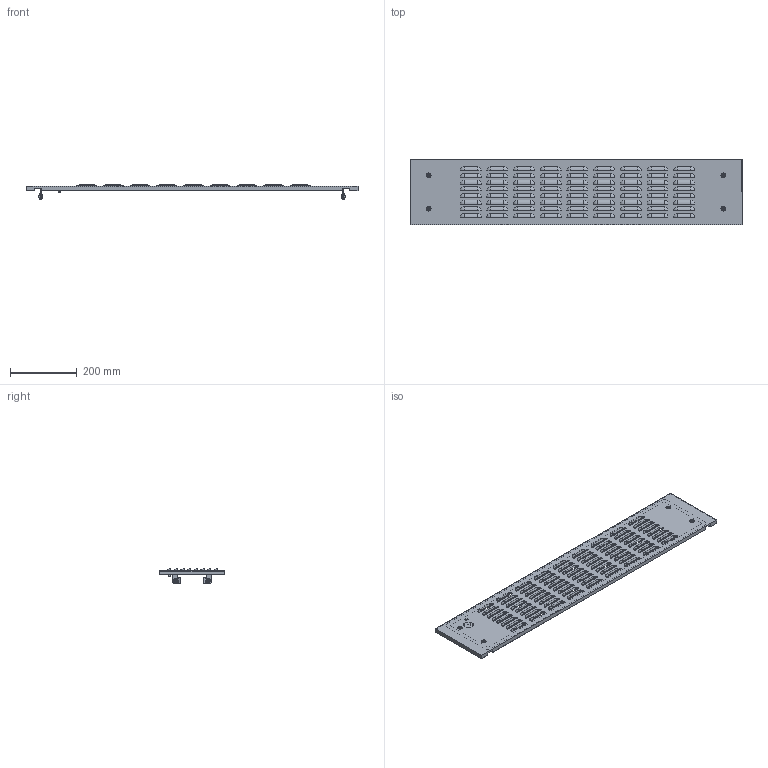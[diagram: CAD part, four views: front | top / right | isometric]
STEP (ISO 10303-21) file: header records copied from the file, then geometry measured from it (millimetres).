
FILE_DESCRIPTION (( 'STEP AP214' ), '1' );
FILE_NAME ('FO-00-PWSV-020-100 Ôàëüø-ïàíåëü âíåøíÿÿ âåíòèëèðóåìàÿ 200õ1000 ìì.STEP', '2025-08-25T06:55:49', ( '' ), ( '' ), 'SwSTEP 2.0', 'SolidWorks 2023', '' );
FILE_SCHEMA (( 'AUTOMOTIVE_DESIGN' ));
Length unit declared in the file: millimetre
Products named in the file (1): FO-00-PWSV-020-100 Фальш-панель внешняя вентилируемая 200х1000 мм
Bounding box: 995 x 196 x 43.5 mm (x, y, z)
Volume: 543524.3 mm3; surface area: 502097.6 mm2
Topology: 1 solids, 10 shells, 1638 faces, 4461 edges, 2575 vertices
Faces by surface type: plane 714, cylinder 550, sphere 288, cone 62, torus 24
Entity records: 50252 total; most frequent: DIRECTION 9265, CARTESIAN_POINT 8957, ORIENTED_EDGE 8342, EDGE_CURVE 4171, AXIS2_PLACEMENT_3D 3487, VERTEX_POINT 2575, LINE 2291, VECTOR 2291
